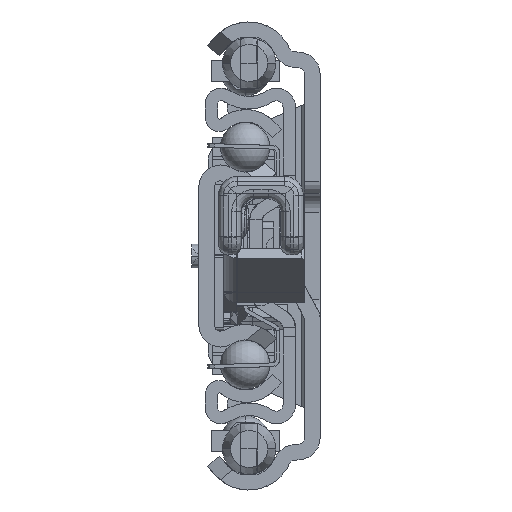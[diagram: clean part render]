
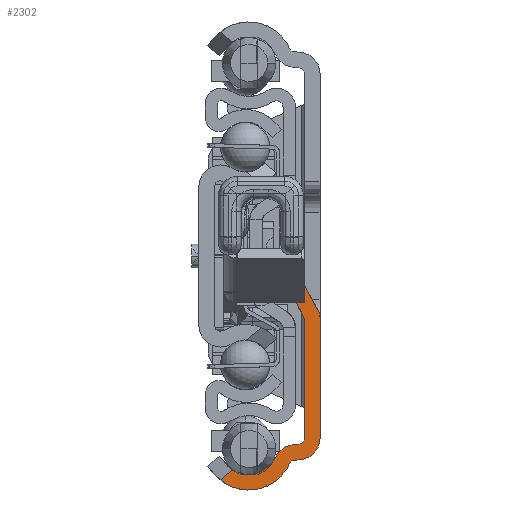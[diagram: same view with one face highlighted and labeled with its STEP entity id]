
A CAD part, left-side view. The second image highlights one B-rep face of the part: STEP entity #2302.
In plain terms, the highlighted planar face has unit normal (-1, 0, 0).
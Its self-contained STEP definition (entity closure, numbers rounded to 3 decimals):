
#45=DIRECTION('',(0.,0.769,-0.639));
#46=VECTOR('',#45,2.575);
#47=CARTESIAN_POINT('',(0.,14.098,
-34.377));
#48=LINE('',#47,#46);
#49=CARTESIAN_POINT('',(0.,11.5,-30.4));
#50=DIRECTION('',(-1.,0.,0.));
#51=DIRECTION('',(0.,0.547,-0.837));
#52=AXIS2_PLACEMENT_3D('',#49,#50,#51);
#54=CARTESIAN_POINT('',(0.,4.008,-33.854));
#55=DIRECTION('',(-1.,0.,0.));
#56=DIRECTION('',(0.,0.087,0.996));
#57=AXIS2_PLACEMENT_3D('',#54,#55,#56);
#59=DIRECTION('',(0.,-0.996,0.087));
#60=VECTOR('',#59,0.904);
#61=CARTESIAN_POINT('',(0.,4.313,-30.368));
#62=LINE('',#61,#60);
#63=DIRECTION('',(0.,0.,1.));
#64=VECTOR('',#63,19.293);
#65=CARTESIAN_POINT('',(0.,2.5,-29.293));
#66=LINE('',#65,#64);
#67=DIRECTION('',(0.,-0.477,-0.879));
#68=VECTOR('',#67,6.873);
#69=CARTESIAN_POINT('',(0.,5.775,-3.958));
#70=LINE('',#69,#68);
#71=CARTESIAN_POINT('',(0.,0.5,-1.099));
#72=DIRECTION('',(-1.,0.,0.));
#73=DIRECTION('',(0.,0.946,-0.324));
#74=AXIS2_PLACEMENT_3D('',#71,#72,#73);
#76=DIRECTION('',(0.,1.,0.));
#77=VECTOR('',#76,2.78);
#78=CARTESIAN_POINT('',(0.,3.397,-3.04));
#79=LINE('',#78,#77);
#80=CARTESIAN_POINT('',(0.,2.5,-9.942));
#81=DIRECTION('',(1.,0.,0.));
#82=DIRECTION('',(0.,-0.879,0.477));
#83=AXIS2_PLACEMENT_3D('',#80,#81,#82);
#85=CARTESIAN_POINT('',(0.,3.5,-29.293));
#86=DIRECTION('',(-1.,0.,0.));
#87=DIRECTION('',(0.,-0.087,-0.996));
#88=AXIS2_PLACEMENT_3D('',#85,#86,#87);
#90=DIRECTION('',(0.,0.996,-0.087));
#91=VECTOR('',#90,0.904);
#92=CARTESIAN_POINT('',(0.,3.195,-32.78));
#93=LINE('',#92,#91);
#94=CARTESIAN_POINT('',(0.,11.5,-30.4));
#95=DIRECTION('',(1.,0.,0.));
#96=DIRECTION('',(0.,-0.908,-0.419));
#97=AXIS2_PLACEMENT_3D('',#94,#95,#96);
#614=DIRECTION('',(0.,0.,1.));
#615=VECTOR('',#614,19.351);
#616=CARTESIAN_POINT('',(0.,0.,-29.293));
#617=LINE('',#616,#615);
#1022=CARTESIAN_POINT('',(0.,16.079,
-36.021));
#1076=CARTESIAN_POINT('',(0.,14.098,
-34.377));
#1365=CARTESIAN_POINT('',(0.,3.5,-29.293));
#1366=DIRECTION('',(1.,0.,0.));
#1367=DIRECTION('',(0.,-1.,0.));
#1368=AXIS2_PLACEMENT_3D('',#1365,#1366,#1367);
#1375=CARTESIAN_POINT('',(0.,4.008,-33.854));
#1376=DIRECTION('',(1.,0.,0.));
#1377=DIRECTION('',(0.,0.908,0.419));
#1378=AXIS2_PLACEMENT_3D('',#1375,#1376,#1377);
#1415=DIRECTION('',(0.,0.477,0.879));
#1416=VECTOR('',#1415,6.495);
#1417=CARTESIAN_POINT('',(0.,0.302,-8.751));
#1418=LINE('',#1417,#1416);
#1422=CARTESIAN_POINT('',(0.,3.397,-3.04));
#1536=CARTESIAN_POINT('',(0.,6.177,-3.04));
#1737=CARTESIAN_POINT('',(0.,2.5,-29.293));
#1738=CARTESIAN_POINT('',(0.,3.413,-30.289));
#1739=VERTEX_POINT('',#1737);
#1740=VERTEX_POINT('',#1738);
#1749=CARTESIAN_POINT('',(0.,4.916,-33.436));
#1750=CARTESIAN_POINT('',(0.,4.095,-32.858));
#1751=VERTEX_POINT('',#1749);
#1752=VERTEX_POINT('',#1750);
#1753=CARTESIAN_POINT('',(0.,4.313,-30.368));
#1754=CARTESIAN_POINT('',(0.,7.186,-32.389));
#1755=VERTEX_POINT('',#1753);
#1756=VERTEX_POINT('',#1754);
#1765=CARTESIAN_POINT('',(0.,3.195,-32.78));
#1766=CARTESIAN_POINT('',(0.,0.,-29.293));
#1767=VERTEX_POINT('',#1765);
#1768=VERTEX_POINT('',#1766);
#2147=VERTEX_POINT('',#1022);
#2155=VERTEX_POINT('',#1076);
#2180=CARTESIAN_POINT('',(0.,2.5,-10.));
#2181=VERTEX_POINT('',#2180);
#2218=VERTEX_POINT('',#1422);
#2219=CARTESIAN_POINT('',(0.,0.302,-8.751));
#2220=VERTEX_POINT('',#2219);
#2222=CARTESIAN_POINT('',(0.,0.,-9.942));
#2223=VERTEX_POINT('',#2222);
#2228=VERTEX_POINT('',#1536);
#2229=CARTESIAN_POINT('',(0.,5.775,-3.958));
#2230=VERTEX_POINT('',#2229);
#2263=CARTESIAN_POINT('',(0.,0.,0.));
#2264=DIRECTION('',(1.,0.,0.));
#2265=DIRECTION('',(0.,-1.,0.));
#2266=AXIS2_PLACEMENT_3D('',#2263,#2264,#2265);
#2267=PLANE('',#2266);
#2269=ORIENTED_EDGE('',*,*,#2268,.F.);
#2271=ORIENTED_EDGE('',*,*,#2270,.T.);
#2273=ORIENTED_EDGE('',*,*,#2272,.F.);
#2275=ORIENTED_EDGE('',*,*,#2274,.T.);
#2277=ORIENTED_EDGE('',*,*,#2276,.F.);
#2279=ORIENTED_EDGE('',*,*,#2278,.T.);
#2281=ORIENTED_EDGE('',*,*,#2280,.F.);
#2283=ORIENTED_EDGE('',*,*,#2282,.F.);
#2285=ORIENTED_EDGE('',*,*,#2284,.F.);
#2287=ORIENTED_EDGE('',*,*,#2286,.F.);
#2289=ORIENTED_EDGE('',*,*,#2288,.T.);
#2291=ORIENTED_EDGE('',*,*,#2290,.F.);
#2293=ORIENTED_EDGE('',*,*,#2292,.F.);
#2295=ORIENTED_EDGE('',*,*,#2294,.T.);
#2297=ORIENTED_EDGE('',*,*,#2296,.F.);
#2299=ORIENTED_EDGE('',*,*,#2298,.T.);
#2300=EDGE_LOOP('',(#2269,#2271,#2273,#2275,#2277,#2279,#2281,#2283,#2285,#2287,
#2289,#2291,#2293,#2295,#2297,#2299));
#2301=FACE_OUTER_BOUND('',#2300,.F.);
#53=CIRCLE('',#52,4.75);
#58=CIRCLE('',#57,3.5);
#75=CIRCLE('',#74,6.);
#84=CIRCLE('',#83,2.5);
#89=CIRCLE('',#88,3.5);
#98=CIRCLE('',#97,7.25);
#1369=CIRCLE('',#1368,1.);
#1379=CIRCLE('',#1378,1.);
#2268=EDGE_CURVE('',#2155,#2147,#48,.T.);
#2270=EDGE_CURVE('',#2155,#1756,#53,.T.);
#2272=EDGE_CURVE('',#1755,#1756,#58,.T.);
#2274=EDGE_CURVE('',#1755,#1740,#62,.T.);
#2276=EDGE_CURVE('',#1739,#1740,#1369,.T.);
#2278=EDGE_CURVE('',#1739,#2181,#66,.T.);
#2280=EDGE_CURVE('',#2230,#2181,#70,.T.);
#2282=EDGE_CURVE('',#2228,#2230,#75,.T.);
#2284=EDGE_CURVE('',#2218,#2228,#79,.T.);
#2286=EDGE_CURVE('',#2220,#2218,#1418,.T.);
#2288=EDGE_CURVE('',#2220,#2223,#84,.T.);
#2290=EDGE_CURVE('',#1768,#2223,#617,.T.);
#2292=EDGE_CURVE('',#1767,#1768,#89,.T.);
#2294=EDGE_CURVE('',#1767,#1752,#93,.T.);
#2296=EDGE_CURVE('',#1751,#1752,#1379,.T.);
#2298=EDGE_CURVE('',#1751,#2147,#98,.T.);
#2302=ADVANCED_FACE('',(#2301),#2267,.F.);
